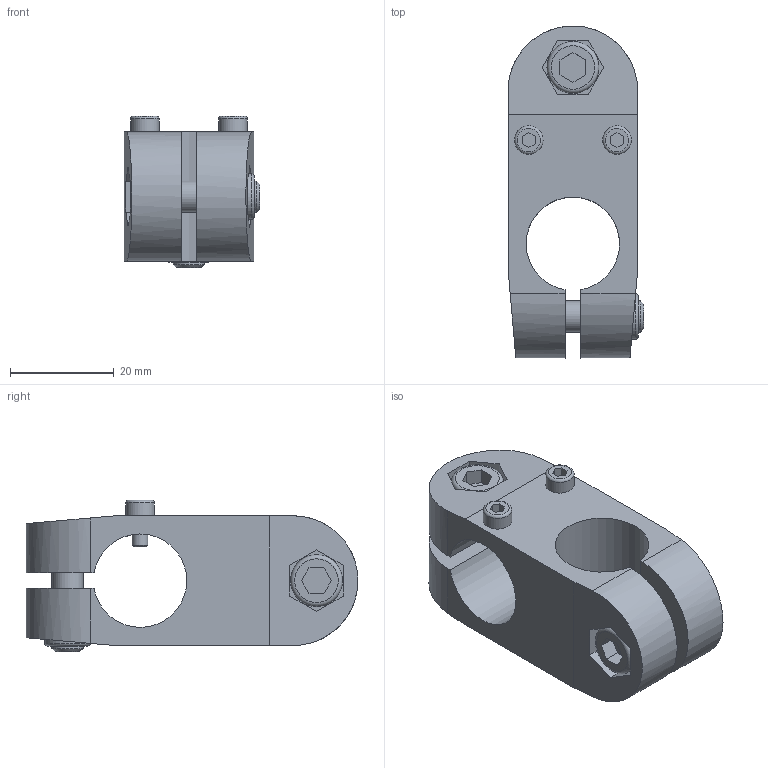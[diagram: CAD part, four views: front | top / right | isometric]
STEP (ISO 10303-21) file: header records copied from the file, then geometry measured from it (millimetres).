
FILE_DESCRIPTION( ( 'STEP AP203' ), '1' );
FILE_NAME( 'C:/Temp/Ganter_Step_05_03_2020/data/3_8/131_1/gn_131_1/Linear actuator connector GN 131.1-G18-B18-2-SW.stp', '2020-03-12T14:56:25', ( 'License CC BY-ND 4.0' ), ( 'CADENAS' ), ' ', 'PARTsolutions', ' ' );
FILE_SCHEMA( ( 'CONFIG_CONTROL_DESIGN' ) );
Length unit declared in the file: millimetre
Products named in the file (1): _Linear actuator connector GN 131.1-G18-B18-2-SW
Bounding box: 26.2 x 64 x 29.2 mm (x, y, z)
Volume: 21286.9 mm3; surface area: 11984.4 mm2
Topology: 1 solids, 1 shells, 146 faces, 339 edges, 219 vertices
Faces by surface type: plane 96, cylinder 22, cone 20, torus 8
Full cylindrical faces by diameter (mm): 3 x2, 3.5 x2, 5.5 x2, 6 x4, 6.5 x4, 10 x2
Entity records: 4192 total; most frequent: CARTESIAN_POINT 993, DIRECTION 626, ORIENTED_EDGE 600, EDGE_CURVE 300, AXIS2_PLACEMENT_3D 217, VERTEX_POINT 212, EDGE_LOOP 206, LINE 192
